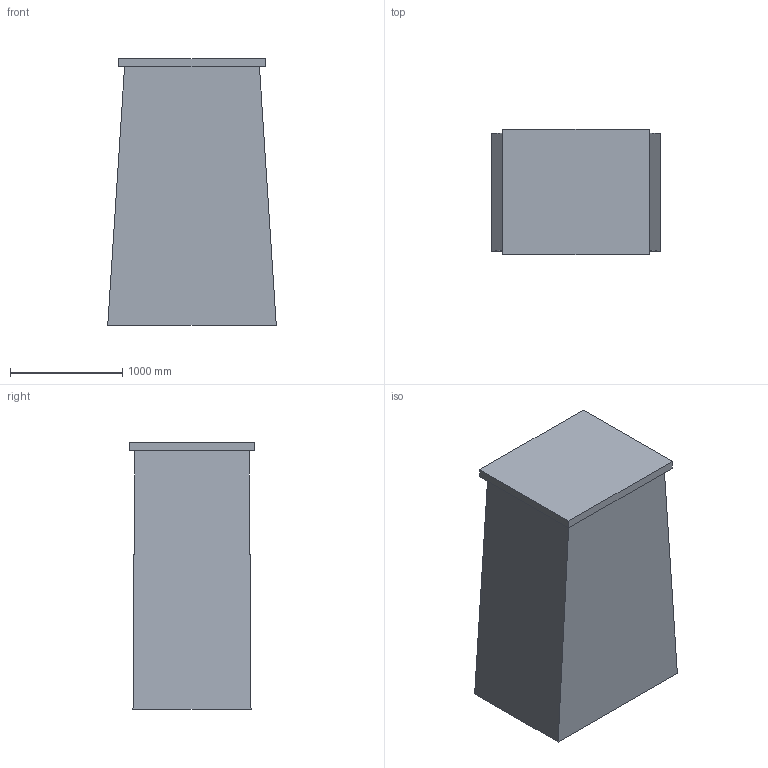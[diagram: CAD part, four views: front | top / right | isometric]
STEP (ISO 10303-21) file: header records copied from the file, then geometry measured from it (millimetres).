
FILE_DESCRIPTION(('Open CASCADE Model'),'2;1');
FILE_NAME('Open CASCADE Shape Model','2026-10-23T17:18:45',('Author'),( 'Open CASCADE'),'Open CASCADE STEP processor 7.8','Open CASCADE 7.8' ,'Unknown');
FILE_SCHEMA(('AUTOMOTIVE_DESIGN { 1 0 10303 214 1 1 1 1 }'));
Length unit declared in the file: millimetre
Products named in the file (3): 7111_Chimney_External_Survey_Envelope; Brickwork_Exterior_Envelope_Internal_Voids_Not_Surveyed; Cap_Schematic_75_Thick_50_Projection_Not_Measured
Assembly tree (2 placements, depth 2):
  7111_Chimney_External_Survey_Envelope
    Brickwork_Exterior_Envelope_Internal_Voids_Not_Surveyed
    Cap_Schematic_75_Thick_50_Projection_Not_Measured
Bounding box: 1500 x 1120 x 2375 mm (x, y, z)
Volume: 3324600000 mm3; surface area: 17055246.3 mm2
Topology: 2 solids, 2 shells, 12 faces, 24 edges, 16 vertices
Faces by surface type: plane 8, bspline 4
Entity records: 674 total; most frequent: CARTESIAN_POINT 123, DIRECTION 86, LINE 64, VECTOR 64, ORIENTED_EDGE 48, PCURVE 48, DEFINITIONAL_REPRESENTATION 48, EDGE_CURVE 24
